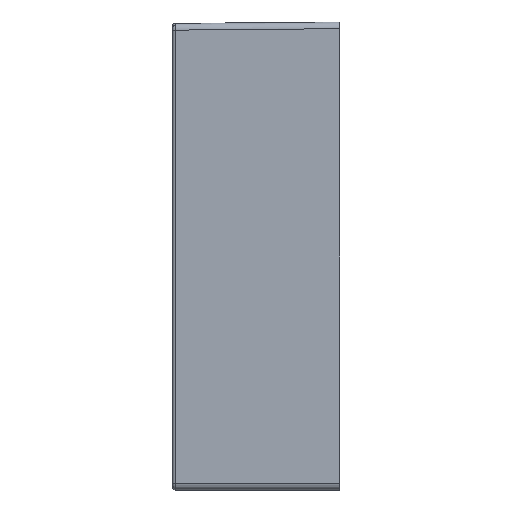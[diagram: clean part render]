
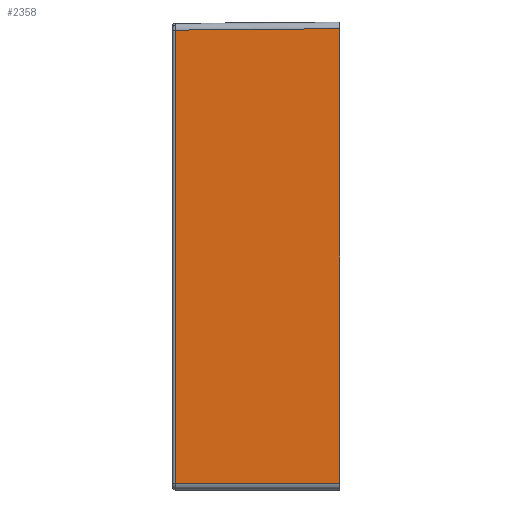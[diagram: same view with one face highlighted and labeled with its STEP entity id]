
A CAD part, left-side view. The second image highlights one B-rep face of the part: STEP entity #2358.
In plain terms, the highlighted planar face has unit normal (-1, 0.009, 0).
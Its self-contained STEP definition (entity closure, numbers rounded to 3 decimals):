
#834 = ORIENTED_EDGE ( 'NONE', *, *, #9020, .T. ) ;
#1151 = ORIENTED_EDGE ( 'NONE', *, *, #5202, .T. ) ;
#1219 = CARTESIAN_POINT ( 'NONE',  ( -175., 0., -195. ) ) ;
#1415 = CARTESIAN_POINT ( 'NONE',  ( -174.989, 1.265, 144.989 ) ) ;
#1552 = CARTESIAN_POINT ( 'NONE',  ( -175., 0., -195. ) ) ;
#2006 = VECTOR ( 'NONE', #18258, 1000. ) ;
#2358 = ADVANCED_FACE ( 'NONE', ( #12530 ), #19498, .T. ) ;
#2563 = DIRECTION ( 'NONE',  ( -1., 0.009, 0. ) ) ;
#2652 = DIRECTION ( 'NONE',  ( 0., 0., 1. ) ) ;
#2715 = ORIENTED_EDGE ( 'NONE', *, *, #7519, .T. ) ;
#3737 = ORIENTED_EDGE ( 'NONE', *, *, #15513, .T. ) ;
#4230 = CARTESIAN_POINT ( 'NONE',  ( -175., 0., 0. ) ) ;
#4412 = VERTEX_POINT ( 'NONE', #6439 ) ;
#4772 = DIRECTION ( 'NONE',  ( -0.009, -1., 0. ) ) ;
#5202 = EDGE_CURVE ( 'NONE', #4412, #18713, #15280, .T. ) ;
#6439 = CARTESIAN_POINT ( 'NONE',  ( -173.926, 123.017, 143.927 ) ) ;
#6869 = CARTESIAN_POINT ( 'NONE',  ( -173.926, 123.017, -195. ) ) ;
#7519 = EDGE_CURVE ( 'NONE', #18713, #8516, #15073, .T. ) ;
#8516 = VERTEX_POINT ( 'NONE', #1219 ) ;
#8721 = VECTOR ( 'NONE', #2652, 1000. ) ;
#8974 = DIRECTION ( 'NONE',  ( 0., 0., -1. ) ) ;
#9020 = EDGE_CURVE ( 'NONE', #8516, #14980, #17819, .T. ) ;
#9417 = CARTESIAN_POINT ( 'NONE',  ( -175., 0., 0. ) ) ;
#12425 = DIRECTION ( 'NONE',  ( -0.009, -1., 0. ) ) ;
#12530 = FACE_OUTER_BOUND ( 'NONE', #14436, .T. ) ;
#13261 = VECTOR ( 'NONE', #8974, 1000. ) ;
#14436 = EDGE_LOOP ( 'NONE', ( #3737, #1151, #2715, #834 ) ) ;
#14980 = VERTEX_POINT ( 'NONE', #20225 ) ;
#15073 = LINE ( 'NONE', #1552, #21067 ) ;
#15280 = LINE ( 'NONE', #6869, #13261 ) ;
#15513 = EDGE_CURVE ( 'NONE', #14980, #4412, #18370, .T. ) ;
#17819 = LINE ( 'NONE', #9417, #8721 ) ;
#18258 = DIRECTION ( 'NONE',  ( 0.009, 1., -0.009 ) ) ;
#18332 = CARTESIAN_POINT ( 'NONE',  ( -173.926, 123.017, -195. ) ) ;
#18370 = LINE ( 'NONE', #1415, #2006 ) ;
#18713 = VERTEX_POINT ( 'NONE', #18332 ) ;
#19498 = PLANE ( 'NONE',  #20677 ) ;
#20225 = CARTESIAN_POINT ( 'NONE',  ( -175., 0., 145. ) ) ;
#20677 = AXIS2_PLACEMENT_3D ( 'NONE', #4230, #2563, #12425 ) ;
#21067 = VECTOR ( 'NONE', #4772, 1000. ) ;
